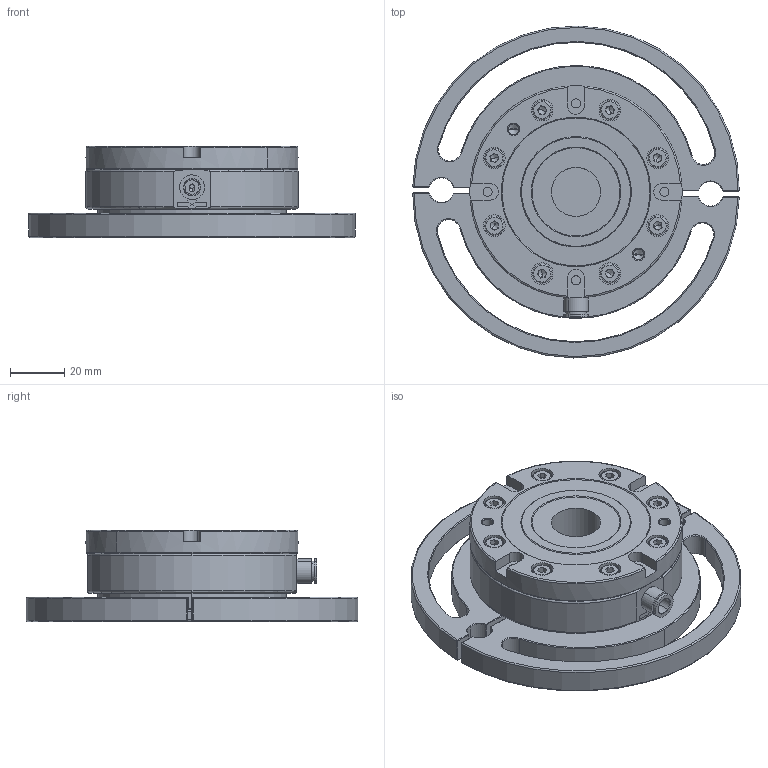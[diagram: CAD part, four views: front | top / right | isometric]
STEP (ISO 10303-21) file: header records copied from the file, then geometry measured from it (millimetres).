
FILE_DESCRIPTION (( 'STEP AP214' ), '1' );
FILE_NAME ('×°ÅäÌå4.STEP', '2020-01-13T07:34:01', ( 'PC' ), ( 'Microsoft' ), 'SwSTEP 2.0', 'SolidWorks 2018', '' );
FILE_SCHEMA (( 'AUTOMOTIVE_DESIGN' ));
Length unit declared in the file: millimetre
Products named in the file (3): LQTMD-5.step; 蚾饜极4; LQNCD-5
Assembly tree (2 placements, depth 2):
  蚾饜极4
    LQTMD-5.step
    LQNCD-5
Bounding box: 120.02 x 121.99 x 33.5 mm (x, y, z)
Volume: 186706.6 mm3; surface area: 65546.9 mm2
Topology: 15 solids, 15 shells, 747 faces, 1710 edges, 1005 vertices
Faces by surface type: plane 306, cylinder 179, cone 141, torus 89, bspline 32
Entity records: 24886 total; most frequent: CARTESIAN_POINT 7565, DIRECTION 3620, ORIENTED_EDGE 3332, EDGE_CURVE 1666, AXIS2_PLACEMENT_3D 1411, VERTEX_POINT 1005, EDGE_LOOP 843, LINE 798
